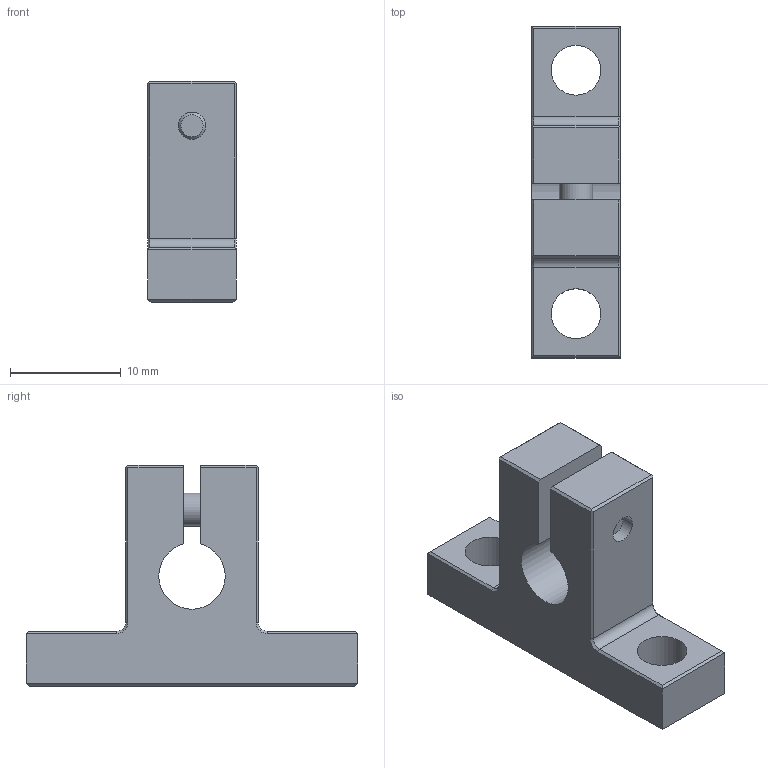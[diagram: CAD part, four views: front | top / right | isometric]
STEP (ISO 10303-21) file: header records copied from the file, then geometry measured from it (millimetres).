
FILE_DESCRIPTION((''),'2;1');
FILE_NAME('D:\製品 (図面)\カタログ用3D\シャフトブロック関連\STEP形式\SHA\SHA6.stp','2010-06-01T16:34:59',('Tsuchiya'),(''),'Autodesk Inventor 10','Autodesk Inventor 10','');
FILE_SCHEMA(('AUTOMOTIVE_DESIGN { 1 0 10303 214 1 1 1 1 }'));
Length unit declared in the file: millimetre
Products named in the file (1): SHA6
Bounding box: 8 x 30 x 20 mm (x, y, z)
Volume: 2139 mm3; surface area: 1836.7 mm2
Topology: 1 solids, 1 shells, 60 faces, 147 edges, 93 vertices
Faces by surface type: plane 42, cylinder 7, cone 6, bspline 4, torus 1
Full cylindrical faces by diameter (mm): 3 x1, 4.5 x2, 5.5 x1
Entity records: 1710 total; most frequent: CARTESIAN_POINT 347, DIRECTION 266, ORIENTED_EDGE 264, EDGE_CURVE 132, VECTOR 100, LINE 100, VERTEX_POINT 88, AXIS2_PLACEMENT_3D 83
